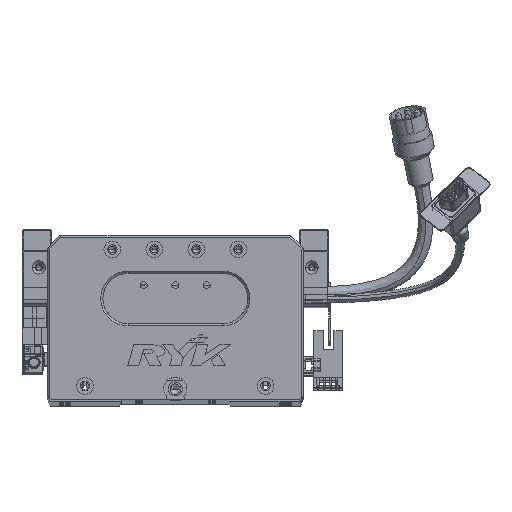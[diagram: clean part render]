
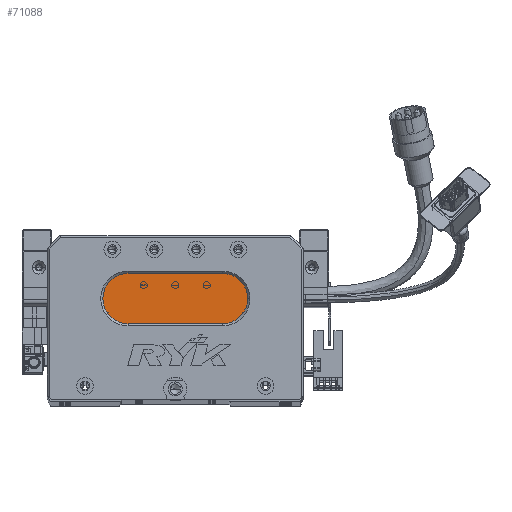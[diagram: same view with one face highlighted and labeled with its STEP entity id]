
A CAD part, top view. The second image highlights one B-rep face of the part: STEP entity #71088.
In plain terms, the highlighted planar face has unit normal (0, 0, 1) as drawn and (0, 0, -1) by its records, which use the part's own axes.
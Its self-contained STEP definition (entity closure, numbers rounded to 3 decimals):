
#251 = CARTESIAN_POINT ( 'NONE',  ( 83.5, 48., 13. ) ) ;
#269 = AXIS2_PLACEMENT_3D ( 'NONE', #5458, #19927, #55675 ) ;
#1736 = VERTEX_POINT ( 'NONE', #19785 ) ;
#2493 = DIRECTION ( 'NONE',  ( -1., 0., 0. ) ) ;
#5458 = CARTESIAN_POINT ( 'NONE',  ( 38.5, 48., 13. ) ) ;
#8233 = ORIENTED_EDGE ( 'NONE', *, *, #66477, .T. ) ;
#8953 = CARTESIAN_POINT ( 'NONE',  ( 83.5, 60., 13. ) ) ;
#14277 = AXIS2_PLACEMENT_3D ( 'NONE', #81791, #46056, #31668 ) ;
#14905 = ORIENTED_EDGE ( 'NONE', *, *, #46272, .T. ) ;
#19572 = VERTEX_POINT ( 'NONE', #80453 ) ;
#19785 = CARTESIAN_POINT ( 'NONE',  ( 83.5, 36., 13. ) ) ;
#19927 = DIRECTION ( 'NONE',  ( 0., 0., -1. ) ) ;
#25143 = ORIENTED_EDGE ( 'NONE', *, *, #34320, .T. ) ;
#25807 = FACE_OUTER_BOUND ( 'NONE', #63760, .T. ) ;
#27743 = LINE ( 'NONE', #8953, #44535 ) ;
#29670 = CIRCLE ( 'NONE', #269, 12. ) ;
#30449 = CARTESIAN_POINT ( 'NONE',  ( 83.5, 36., 13. ) ) ;
#30770 = VERTEX_POINT ( 'NONE', #32621 ) ;
#31668 = DIRECTION ( 'NONE',  ( -1., 0., 0. ) ) ;
#32621 = CARTESIAN_POINT ( 'NONE',  ( 26.5, 48., 13. ) ) ;
#33414 = AXIS2_PLACEMENT_3D ( 'NONE', #87613, #44915, #65913 ) ;
#34238 = VERTEX_POINT ( 'NONE', #40955 ) ;
#34320 = EDGE_CURVE ( 'NONE', #30770, #34238, #29670, .T. ) ;
#34560 = EDGE_CURVE ( 'NONE', #19572, #30770, #75630, .T. ) ;
#37741 = VECTOR ( 'NONE', #2493, 1000. ) ;
#40955 = CARTESIAN_POINT ( 'NONE',  ( 38.5, 60., 13. ) ) ;
#40996 = ORIENTED_EDGE ( 'NONE', *, *, #34560, .T. ) ;
#44535 = VECTOR ( 'NONE', #73848, 1000. ) ;
#44915 = DIRECTION ( 'NONE',  ( 0., 0., -1. ) ) ;
#46056 = DIRECTION ( 'NONE',  ( 0., 0., -1. ) ) ;
#46272 = EDGE_CURVE ( 'NONE', #61072, #1736, #77283, .T. ) ;
#48275 = EDGE_CURVE ( 'NONE', #1736, #19572, #85936, .T. ) ;
#52965 = PLANE ( 'NONE',  #14277 ) ;
#55675 = DIRECTION ( 'NONE',  ( -1., 0., 0. ) ) ;
#61072 = VERTEX_POINT ( 'NONE', #81222 ) ;
#63760 = EDGE_LOOP ( 'NONE', ( #14905, #74489, #40996, #25143, #8233 ) ) ;
#65434 = DIRECTION ( 'NONE',  ( 0., 0., -1. ) ) ;
#65913 = DIRECTION ( 'NONE',  ( -1., 0., 0. ) ) ;
#66477 = EDGE_CURVE ( 'NONE', #34238, #61072, #27743, .T. ) ;
#71088 = ADVANCED_FACE ( 'NONE', ( #25807 ), #52965, .T. ) ;
#72057 = DIRECTION ( 'NONE',  ( -1., 0., 0. ) ) ;
#73848 = DIRECTION ( 'NONE',  ( 1., 0., 0. ) ) ;
#74489 = ORIENTED_EDGE ( 'NONE', *, *, #48275, .T. ) ;
#75630 = CIRCLE ( 'NONE', #33414, 12. ) ;
#77283 = CIRCLE ( 'NONE', #84380, 12. ) ;
#80453 = CARTESIAN_POINT ( 'NONE',  ( 38.5, 36., 13. ) ) ;
#81222 = CARTESIAN_POINT ( 'NONE',  ( 83.5, 60., 13. ) ) ;
#81791 = CARTESIAN_POINT ( 'NONE',  ( 83.5, 48., 13. ) ) ;
#84380 = AXIS2_PLACEMENT_3D ( 'NONE', #251, #65434, #72057 ) ;
#85936 = LINE ( 'NONE', #30449, #37741 ) ;
#87613 = CARTESIAN_POINT ( 'NONE',  ( 38.5, 48., 13. ) ) ;
